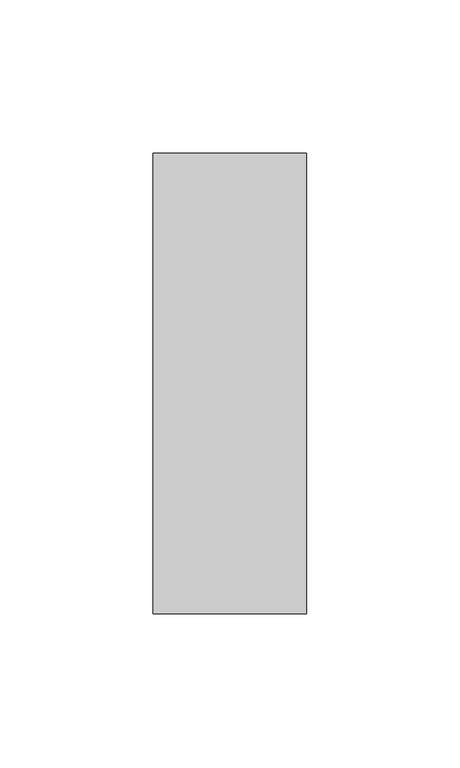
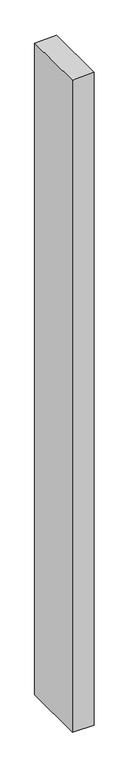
"""IFC4 building model written with IfcOpenShell, lengths in millimetres: member geometry, Прямоугольный импост : 50 x 150 мм."""

from ifc_helpers import new_model, si_unit, origin, place, context, project, spatial, faceted_brep, source, transform, mapped, element, save


def member_488aba72(model_context):
    return source(origin(), model_context, "Body", "Brep", [
        faceted_brep([(-25.0, 75.0, -1.0731049), (25.0, 75.0, 0.3859185), (25.0, 75.0, -1585.936461), (-25.0, 75.0, -1584.333567), (-25.0, -75.0, -0.3859185), (-25.0, -75.0, -1583.3193013), (25.0, -75.0, 1.0731049), (25.0, -75.0, -1584.9221953)], [[[0, 1, 2, 3]], [[4, 0, 3, 5]], [[6, 4, 5, 7]], [[1, 6, 7, 2]], [[1, 0, 4, 6]], [[2, 7, 5, 3]]]),
    ])


if __name__ == "__main__":
    model = new_model("IFC4")
    model_context = context("Model", 3, world=origin())
    ifc_project = project(units=[si_unit("LENGTHUNIT", "METRE", prefix="MILLI")], contexts=[model_context])
    site = spatial("IfcSite", under=ifc_project)
    building = spatial("IfcBuilding", under=site)
    placement = place(None, origin())
    member_shape = member_488aba72(model_context)
    element("IfcMember", 1, ObjectType="Прямоугольный импост : 50 x 150 мм", at=placement, inside=building, context=model_context, shape_type="MappedRepresentation", body=[
        mapped(member_shape, transform((0.0, 0.0, 0.0), x_axis=(1.0, 0.0, 0.0), y_axis=(0.0, 1.0, 0.0), z_axis=(0.0, 0.0, 1.0))),
    ])
    save(model, "model.ifc")
